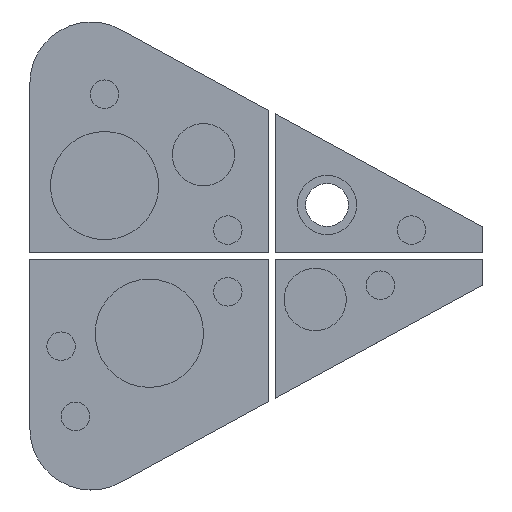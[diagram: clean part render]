
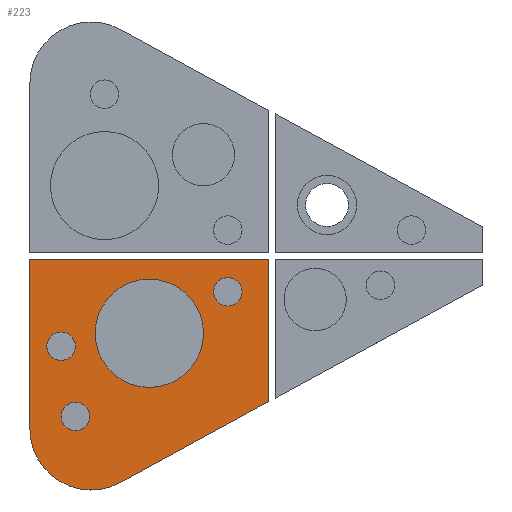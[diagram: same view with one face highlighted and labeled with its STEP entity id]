
A CAD part, top view. The second image highlights one B-rep face of the part: STEP entity #223.
In plain terms, the highlighted planar face has unit normal (0, 0, 1).
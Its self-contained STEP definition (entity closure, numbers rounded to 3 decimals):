
#223=ADVANCED_FACE('',(#668,#670,#672,#674,#676),#678,.T.);
#668=FACE_BOUND('',#669,.T.);
#669=EDGE_LOOP('',(#1004,#1005,#1006,#1007,#1008));
#670=FACE_BOUND('',#671,.T.);
#671=EDGE_LOOP('',(#1009));
#672=FACE_BOUND('',#673,.T.);
#673=EDGE_LOOP('',(#1010));
#674=FACE_BOUND('',#675,.T.);
#675=EDGE_LOOP('',(#1011));
#676=FACE_BOUND('',#677,.T.);
#677=EDGE_LOOP('',(#1012));
#678=PLANE('',#679);
#679=AXIS2_PLACEMENT_3D('',#680,#681,#682);
#680=CARTESIAN_POINT('',(0.,0.,0.8));
#681=DIRECTION('',(0.,0.,1.));
#682=DIRECTION('',(1.,0.,0.));
#1004=ORIENTED_EDGE('',*,*,#1141,.T.);
#1005=ORIENTED_EDGE('',*,*,#1142,.T.);
#1006=ORIENTED_EDGE('',*,*,#1143,.T.);
#1007=ORIENTED_EDGE('',*,*,#1144,.T.);
#1008=ORIENTED_EDGE('',*,*,#1145,.T.);
#1009=ORIENTED_EDGE('',*,*,#1146,.T.);
#1010=ORIENTED_EDGE('',*,*,#1147,.T.);
#1011=ORIENTED_EDGE('',*,*,#1148,.T.);
#1012=ORIENTED_EDGE('',*,*,#1149,.T.);
#1141=EDGE_CURVE('',#1239,#1240,#1241,.F.);
#1142=EDGE_CURVE('',#1240,#1242,#1243,.F.);
#1143=EDGE_CURVE('',#1242,#1244,#1245,.T.);
#1144=EDGE_CURVE('',#1244,#1246,#1247,.T.);
#1145=EDGE_CURVE('',#1246,#1239,#1248,.T.);
#1146=EDGE_CURVE('',#1249,#1249,#1250,.F.);
#1147=EDGE_CURVE('',#1251,#1251,#1252,.F.);
#1148=EDGE_CURVE('',#1253,#1253,#1254,.F.);
#1149=EDGE_CURVE('',#1255,#1255,#1256,.F.);
#1239=VERTEX_POINT('',#1437);
#1240=VERTEX_POINT('',#1438);
#1241=LINE('',#1439,#1440);
#1242=VERTEX_POINT('',#1442);
#1243=LINE('',#1443,#1444);
#1244=VERTEX_POINT('',#1446);
#1245=LINE('',#1447,#1448);
#1246=VERTEX_POINT('',#1450);
#1247=CIRCLE('',#1451,40.);
#1248=LINE('',#1455,#1456);
#1249=VERTEX_POINT('',#1458);
#1250=CIRCLE('',#1459,35.3);
#1251=VERTEX_POINT('',#1463);
#1252=CIRCLE('',#1464,9.3);
#1253=VERTEX_POINT('',#1468);
#1254=CIRCLE('',#1469,9.3);
#1255=VERTEX_POINT('',#1473);
#1256=CIRCLE('',#1474,9.3);
#1437=CARTESIAN_POINT('',(-139.023,-94.883,0.8));
#1438=CARTESIAN_POINT('',(-139.023,-2.,0.8));
#1439=CARTESIAN_POINT('',(-139.023,-2.,0.8));
#1440=VECTOR('',#1441,1.);
#1441=DIRECTION('',(0.,-1.,0.));
#1442=CARTESIAN_POINT('',(-295.,-2.,0.8));
#1443=CARTESIAN_POINT('',(-295.,-2.,0.8));
#1444=VECTOR('',#1445,1.);
#1445=DIRECTION('',(1.,0.,0.));
#1446=CARTESIAN_POINT('',(-295.,-112.617,0.8));
#1447=CARTESIAN_POINT('',(-295.,-2.,0.8));
#1448=VECTOR('',#1449,1.);
#1449=DIRECTION('',(0.,-1.,0.));
#1450=CARTESIAN_POINT('',(-235.836,-147.727,0.8));
#1451=AXIS2_PLACEMENT_3D('',#1452,#1453,#1454);
#1452=CARTESIAN_POINT('',(-255.,-112.617,0.8));
#1453=DIRECTION('',(0.,0.,1.));
#1454=DIRECTION('',(-1.,0.,0.));
#1455=CARTESIAN_POINT('',(-235.836,-147.727,0.8));
#1456=VECTOR('',#1457,1.);
#1457=DIRECTION('',(0.878,0.479,0.));
#1458=CARTESIAN_POINT('',(-181.763,-50.397,0.8));
#1459=AXIS2_PLACEMENT_3D('',#1460,#1461,#1462);
#1460=CARTESIAN_POINT('',(-217.063,-50.397,0.8));
#1461=DIRECTION('',(0.,0.,1.));
#1462=DIRECTION('',(1.,0.,0.));
#1463=CARTESIAN_POINT('',(-156.566,-23.361,0.8));
#1464=AXIS2_PLACEMENT_3D('',#1465,#1466,#1467);
#1465=CARTESIAN_POINT('',(-165.866,-23.361,0.8));
#1466=DIRECTION('',(0.,0.,1.));
#1467=DIRECTION('',(1.,0.,0.));
#1468=CARTESIAN_POINT('',(-256.004,-104.594,0.8));
#1469=AXIS2_PLACEMENT_3D('',#1470,#1471,#1472);
#1470=CARTESIAN_POINT('',(-265.304,-104.594,0.8));
#1471=DIRECTION('',(0.,0.,1.));
#1472=DIRECTION('',(1.,0.,0.));
#1473=CARTESIAN_POINT('',(-265.304,-58.854,0.8));
#1474=AXIS2_PLACEMENT_3D('',#1475,#1476,#1477);
#1475=CARTESIAN_POINT('',(-274.604,-58.854,0.8));
#1476=DIRECTION('',(0.,0.,1.));
#1477=DIRECTION('',(1.,0.,0.));
